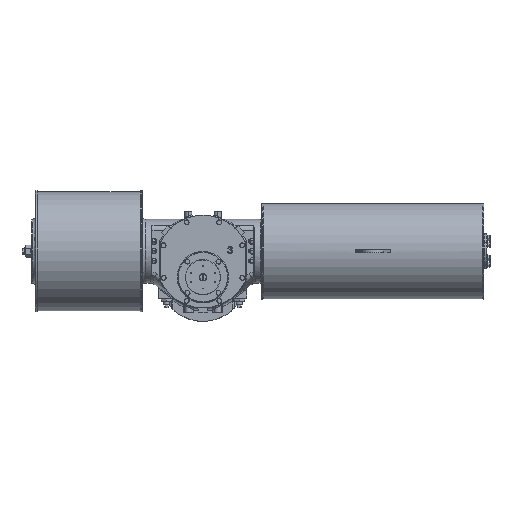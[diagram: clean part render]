
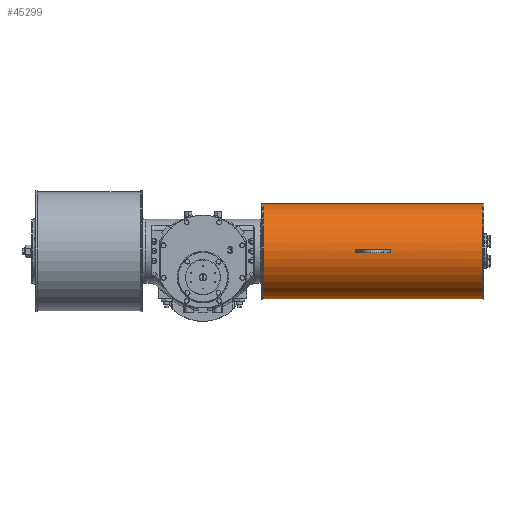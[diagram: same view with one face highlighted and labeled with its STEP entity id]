
A CAD part, top view. The second image highlights one B-rep face of the part: STEP entity #45299.
In plain terms, the highlighted cylindrical face has radius 162.5 mm (diameter 325 mm), a partial arc.
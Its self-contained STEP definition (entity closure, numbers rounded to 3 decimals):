
#201 = EDGE_CURVE ( 'NONE', #67183, #10739, #62325, .T. ) ;
#2169 = CIRCLE ( 'NONE', #63566, 162.5 ) ;
#2408 = VERTEX_POINT ( 'NONE', #73222 ) ;
#3385 = CARTESIAN_POINT ( 'NONE',  ( 639.5, 30.5, 236.923 ) ) ;
#3945 = ORIENTED_EDGE ( 'NONE', *, *, #75854, .T. ) ;
#4795 = DIRECTION ( 'NONE',  ( 1., 0., 0. ) ) ;
#4877 = VERTEX_POINT ( 'NONE', #3385 ) ;
#5031 = ORIENTED_EDGE ( 'NONE', *, *, #65656, .F. ) ;
#5288 = EDGE_CURVE ( 'NONE', #56580, #2408, #23704, .T. ) ;
#7298 = CIRCLE ( 'NONE', #72220, 162.5 ) ;
#8108 = DIRECTION ( 'NONE',  ( 0., 1., 0. ) ) ;
#8920 = ORIENTED_EDGE ( 'NONE', *, *, #70652, .T. ) ;
#10333 = EDGE_CURVE ( 'NONE', #2408, #57236, #68046, .T. ) ;
#10428 = DIRECTION ( 'NONE',  ( 1., 0., 0. ) ) ;
#10670 = EDGE_LOOP ( 'NONE', ( #5031, #67260, #37813, #35618, #8920, #3945 ) ) ;
#10739 = VERTEX_POINT ( 'NONE', #32514 ) ;
#11413 = AXIS2_PLACEMENT_3D ( 'NONE', #52069, #4795, #51680 ) ;
#11565 = EDGE_CURVE ( 'NONE', #56580, #32107, #14326, .T. ) ;
#11662 = CIRCLE ( 'NONE', #43584, 162.5 ) ;
#12820 = ORIENTED_EDGE ( 'NONE', *, *, #5288, .T. ) ;
#14046 = CARTESIAN_POINT ( 'NONE',  ( 639.5, 35.5, 237. ) ) ;
#14326 = LINE ( 'NONE', #14688, #52105 ) ;
#14688 = CARTESIAN_POINT ( 'NONE',  ( 208., 198., 74.5 ) ) ;
#15142 = DIRECTION ( 'NONE',  ( 0., 1., 0. ) ) ;
#16017 = CARTESIAN_POINT ( 'NONE',  ( 954., 35.5, 74.5 ) ) ;
#19560 = ORIENTED_EDGE ( 'NONE', *, *, #10333, .T. ) ;
#20440 = DIRECTION ( 'NONE',  ( 1., 0., 0. ) ) ;
#22164 = DIRECTION ( 'NONE',  ( 1., 0., 0. ) ) ;
#23479 = CARTESIAN_POINT ( 'NONE',  ( 519.5, 30.5, 236.923 ) ) ;
#23704 = CIRCLE ( 'NONE', #11413, 162.5 ) ;
#25050 = LINE ( 'NONE', #53509, #72717 ) ;
#27246 = EDGE_CURVE ( 'NONE', #63461, #67183, #2169, .T. ) ;
#28024 = AXIS2_PLACEMENT_3D ( 'NONE', #64638, #58849, #8108 ) ;
#29110 = CARTESIAN_POINT ( 'NONE',  ( 208., -127., 74.5 ) ) ;
#29993 = ORIENTED_EDGE ( 'NONE', *, *, #11565, .F. ) ;
#31334 = DIRECTION ( 'NONE',  ( 0., -1., 0. ) ) ;
#32107 = VERTEX_POINT ( 'NONE', #75617 ) ;
#32514 = CARTESIAN_POINT ( 'NONE',  ( 639.5, 40.5, 236.923 ) ) ;
#32804 = DIRECTION ( 'NONE',  ( -1., 0., 0. ) ) ;
#33155 = CARTESIAN_POINT ( 'NONE',  ( 205., 198., 74.5 ) ) ;
#33190 = ORIENTED_EDGE ( 'NONE', *, *, #61736, .T. ) ;
#35618 = ORIENTED_EDGE ( 'NONE', *, *, #201, .T. ) ;
#37060 = CARTESIAN_POINT ( 'NONE',  ( 639.5, 35.5, 74.5 ) ) ;
#37376 = VECTOR ( 'NONE', #20440, 1000. ) ;
#37813 = ORIENTED_EDGE ( 'NONE', *, *, #27246, .T. ) ;
#38862 = VERTEX_POINT ( 'NONE', #14046 ) ;
#40191 = DIRECTION ( 'NONE',  ( -1., 0., 0. ) ) ;
#40694 = DIRECTION ( 'NONE',  ( 0., -1., 0. ) ) ;
#42258 = AXIS2_PLACEMENT_3D ( 'NONE', #74444, #22164, #69440 ) ;
#43276 = CARTESIAN_POINT ( 'NONE',  ( 639.5, 35.5, 74.5 ) ) ;
#43584 = AXIS2_PLACEMENT_3D ( 'NONE', #37060, #49390, #31334 ) ;
#45299 = ADVANCED_FACE ( 'NONE', ( #51375, #51003 ), #74809, .T. ) ;
#45383 = CARTESIAN_POINT ( 'NONE',  ( 208., 40.5, 236.923 ) ) ;
#46434 = VERTEX_POINT ( 'NONE', #23479 ) ;
#49390 = DIRECTION ( 'NONE',  ( 1., 0., 0. ) ) ;
#50485 = EDGE_CURVE ( 'NONE', #46434, #63461, #71016, .T. ) ;
#51003 = FACE_OUTER_BOUND ( 'NONE', #51950, .T. ) ;
#51375 = FACE_BOUND ( 'NONE', #10670, .T. ) ;
#51680 = DIRECTION ( 'NONE',  ( 0., 1., 0. ) ) ;
#51950 = EDGE_LOOP ( 'NONE', ( #12820, #19560, #33190, #29993 ) ) ;
#52069 = CARTESIAN_POINT ( 'NONE',  ( 205., 35.5, 74.5 ) ) ;
#52105 = VECTOR ( 'NONE', #71552, 1000. ) ;
#53509 = CARTESIAN_POINT ( 'NONE',  ( 208., 30.5, 236.923 ) ) ;
#53622 = CARTESIAN_POINT ( 'NONE',  ( 519.5, 40.5, 236.923 ) ) ;
#54822 = CARTESIAN_POINT ( 'NONE',  ( 519.5, 35.5, 237. ) ) ;
#56014 = AXIS2_PLACEMENT_3D ( 'NONE', #16017, #40191, #62884 ) ;
#56580 = VERTEX_POINT ( 'NONE', #33155 ) ;
#57236 = VERTEX_POINT ( 'NONE', #68370 ) ;
#58849 = DIRECTION ( 'NONE',  ( -1., 0., 0. ) ) ;
#59759 = VECTOR ( 'NONE', #10428, 1000. ) ;
#61736 = EDGE_CURVE ( 'NONE', #57236, #32107, #71978, .T. ) ;
#62325 = LINE ( 'NONE', #45383, #59759 ) ;
#62884 = DIRECTION ( 'NONE',  ( 0., 1., 0. ) ) ;
#63161 = CARTESIAN_POINT ( 'NONE',  ( 519.5, 35.5, 74.5 ) ) ;
#63461 = VERTEX_POINT ( 'NONE', #54822 ) ;
#63566 = AXIS2_PLACEMENT_3D ( 'NONE', #63161, #32804, #15142 ) ;
#64638 = CARTESIAN_POINT ( 'NONE',  ( 519.5, 35.5, 74.5 ) ) ;
#65656 = EDGE_CURVE ( 'NONE', #46434, #4877, #25050, .T. ) ;
#67183 = VERTEX_POINT ( 'NONE', #53622 ) ;
#67260 = ORIENTED_EDGE ( 'NONE', *, *, #50485, .T. ) ;
#68046 = LINE ( 'NONE', #29110, #37376 ) ;
#68370 = CARTESIAN_POINT ( 'NONE',  ( 954., -127., 74.5 ) ) ;
#69440 = DIRECTION ( 'NONE',  ( 0., 1., 0. ) ) ;
#69947 = DIRECTION ( 'NONE',  ( 1., 0., 0. ) ) ;
#70652 = EDGE_CURVE ( 'NONE', #10739, #38862, #11662, .T. ) ;
#71016 = CIRCLE ( 'NONE', #28024, 162.5 ) ;
#71184 = DIRECTION ( 'NONE',  ( 1., 0., 0. ) ) ;
#71552 = DIRECTION ( 'NONE',  ( 1., 0., 0. ) ) ;
#71978 = CIRCLE ( 'NONE', #56014, 162.5 ) ;
#72220 = AXIS2_PLACEMENT_3D ( 'NONE', #43276, #69947, #40694 ) ;
#72717 = VECTOR ( 'NONE', #71184, 1000. ) ;
#73222 = CARTESIAN_POINT ( 'NONE',  ( 205., -127., 74.5 ) ) ;
#74444 = CARTESIAN_POINT ( 'NONE',  ( 208., 35.5, 74.5 ) ) ;
#74809 = CYLINDRICAL_SURFACE ( 'NONE', #42258, 162.5 ) ;
#75617 = CARTESIAN_POINT ( 'NONE',  ( 954., 198., 74.5 ) ) ;
#75854 = EDGE_CURVE ( 'NONE', #38862, #4877, #7298, .T. ) ;
